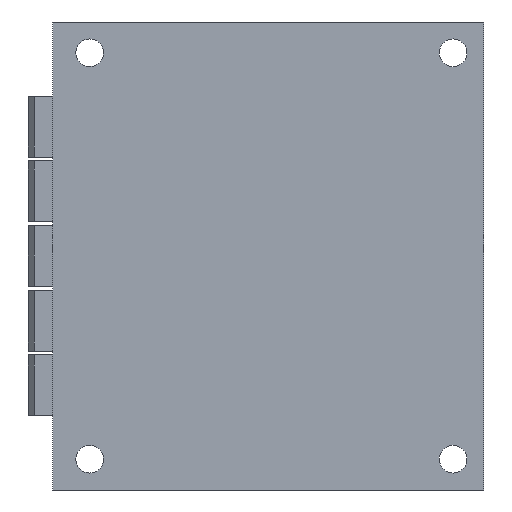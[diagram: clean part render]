
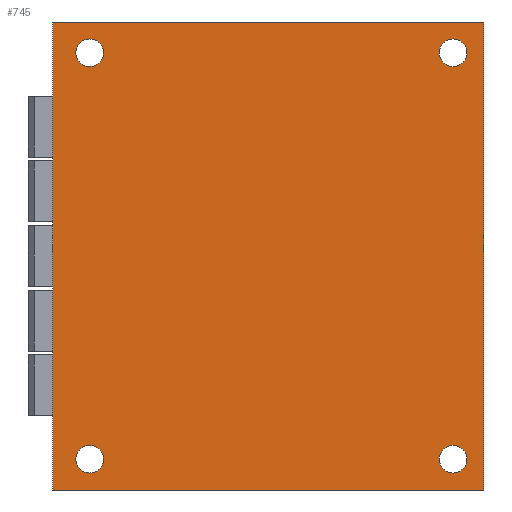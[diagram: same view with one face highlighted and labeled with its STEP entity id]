
A CAD part, front view. The second image highlights one B-rep face of the part: STEP entity #745.
In plain terms, the highlighted planar face has unit normal (0, -1, 0).
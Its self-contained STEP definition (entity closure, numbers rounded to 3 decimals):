
#745=ADVANCED_FACE('',(#1371,#1372,#1373,#1374,#1375),#1376,.F.);
#1371=FACE_OUTER_BOUND('',#2021,.T.);
#1372=FACE_BOUND('',#2022,.T.);
#1373=FACE_BOUND('',#2023,.T.);
#1374=FACE_BOUND('',#2024,.T.);
#1375=FACE_BOUND('',#2025,.T.);
#1376=PLANE('',#2026);
#2021=EDGE_LOOP('',(#4243,#4244,#4245,#4246));
#2022=EDGE_LOOP('',(#4247));
#2023=EDGE_LOOP('',(#4248));
#2024=EDGE_LOOP('',(#4249));
#2025=EDGE_LOOP('',(#4250));
#2026=AXIS2_PLACEMENT_3D('',#4251,#4252,#4253);
#4243=ORIENTED_EDGE('',*,*,#4999,.T.);
#4244=ORIENTED_EDGE('',*,*,#5000,.F.);
#4245=ORIENTED_EDGE('',*,*,#4981,.F.);
#4246=ORIENTED_EDGE('',*,*,#4993,.T.);
#4247=ORIENTED_EDGE('',*,*,#5001,.F.);
#4248=ORIENTED_EDGE('',*,*,#4995,.F.);
#4249=ORIENTED_EDGE('',*,*,#5002,.F.);
#4250=ORIENTED_EDGE('',*,*,#4997,.F.);
#4251=CARTESIAN_POINT('',(0.0,0.0,38.0));
#4252=DIRECTION('',(-0.0,1.0,0.0));
#4253=DIRECTION('',(1.0,0.0,0.0));
#4981=EDGE_CURVE('',#6145,#6147,#6148,.T.);
#4993=EDGE_CURVE('',#6145,#6169,#6171,.T.);
#4995=EDGE_CURVE('',#6173,#6173,#6174,.T.);
#4997=EDGE_CURVE('',#6177,#6177,#6178,.T.);
#4999=EDGE_CURVE('',#6169,#6181,#6182,.T.);
#5000=EDGE_CURVE('',#6147,#6181,#6183,.T.);
#5001=EDGE_CURVE('',#6184,#6184,#6185,.T.);
#5002=EDGE_CURVE('',#6186,#6186,#6187,.T.);
#6145=VERTEX_POINT('',#7994);
#6147=VERTEX_POINT('',#7997);
#6148=LINE('',#7998,#7999);
#6169=VERTEX_POINT('',#8021);
#6171=LINE('',#8024,#8025);
#6173=VERTEX_POINT('',#8028);
#6174=CIRCLE('',#8029,2.25);
#6177=VERTEX_POINT('',#8032);
#6178=CIRCLE('',#8033,2.25);
#6181=VERTEX_POINT('',#8036);
#6182=LINE('',#8037,#8038);
#6183=LINE('',#8039,#8040);
#6184=VERTEX_POINT('',#8041);
#6185=CIRCLE('',#8042,2.25);
#6186=VERTEX_POINT('',#8043);
#6187=CIRCLE('',#8044,2.25);
#7994=CARTESIAN_POINT('',(0.0,0.0,38.0));
#7997=CARTESIAN_POINT('',(70.0,0.0,38.0));
#7998=CARTESIAN_POINT('',(0.0,0.0,38.0));
#7999=VECTOR('',#8955,1.0);
#8021=CARTESIAN_POINT('',(0.0,0.0,-38.0));
#8024=CARTESIAN_POINT('',(0.0,0.0,38.0));
#8025=VECTOR('',#8985,1.0);
#8028=CARTESIAN_POINT('',(65.0,0.0,-30.75));
#8029=AXIS2_PLACEMENT_3D('',#8987,#8988,#8989);
#8032=CARTESIAN_POINT('',(65.0,0.0,35.25));
#8033=AXIS2_PLACEMENT_3D('',#8993,#8994,#8995);
#8036=CARTESIAN_POINT('',(70.0,0.0,-38.0));
#8037=CARTESIAN_POINT('',(0.0,0.0,-38.0));
#8038=VECTOR('',#8999,1.0);
#8039=CARTESIAN_POINT('',(70.0,0.0,38.0));
#8040=VECTOR('',#9000,1.0);
#8041=CARTESIAN_POINT('',(6.0,0.0,35.25));
#8042=AXIS2_PLACEMENT_3D('',#9001,#9002,#9003);
#8043=CARTESIAN_POINT('',(6.0,0.0,-30.75));
#8044=AXIS2_PLACEMENT_3D('',#9004,#9005,#9006);
#8955=DIRECTION('',(1.0,0.0,0.0));
#8985=DIRECTION('',(0.0,0.0,-1.0));
#8987=CARTESIAN_POINT('',(65.0,0.0,-33.0));
#8988=DIRECTION('',(0.0,-1.0,0.0));
#8989=DIRECTION('',(0.0,0.0,1.0));
#8993=CARTESIAN_POINT('',(65.0,0.0,33.0));
#8994=DIRECTION('',(0.0,-1.0,0.0));
#8995=DIRECTION('',(0.0,0.0,1.0));
#8999=DIRECTION('',(1.0,0.0,0.0));
#9000=DIRECTION('',(0.0,0.0,-1.0));
#9001=CARTESIAN_POINT('',(6.0,0.0,33.0));
#9002=DIRECTION('',(0.0,-1.0,0.0));
#9003=DIRECTION('',(0.0,0.0,1.0));
#9004=CARTESIAN_POINT('',(6.0,0.0,-33.0));
#9005=DIRECTION('',(0.0,-1.0,0.0));
#9006=DIRECTION('',(0.0,0.0,1.0));
